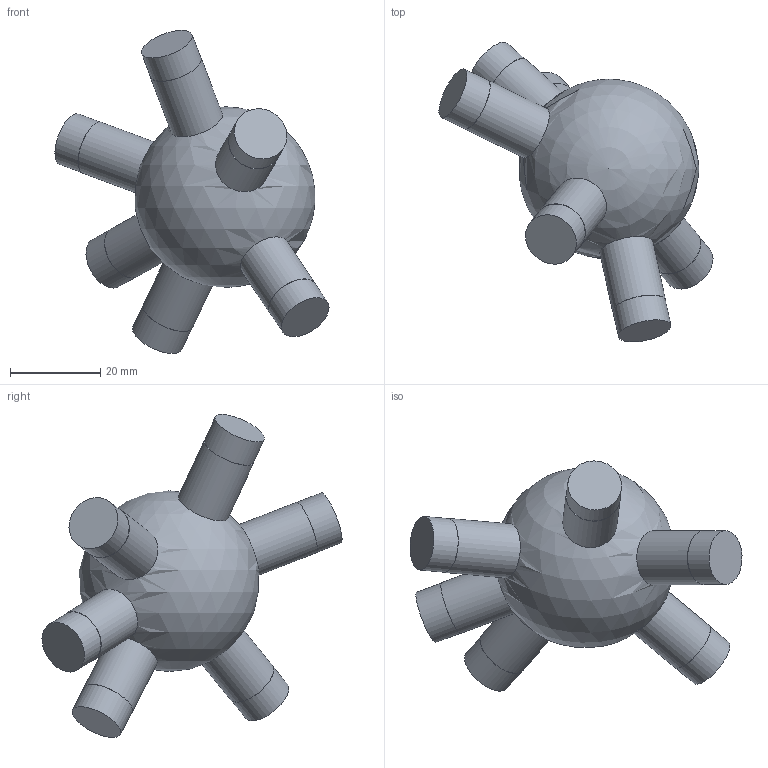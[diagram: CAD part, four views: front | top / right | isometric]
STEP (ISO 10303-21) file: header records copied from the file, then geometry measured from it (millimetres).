
FILE_DESCRIPTION(('Open CASCADE Model'),'2;1');
FILE_NAME('Open CASCADE Shape Model','2026-10-21T12:47:57',('Author'),( 'Open CASCADE'),'Open CASCADE STEP processor 7.9','Open CASCADE 7.9' ,'Unknown');
FILE_SCHEMA(('AUTOMOTIVE_DESIGN { 1 0 10303 214 1 1 1 1 }'));
Length unit declared in the file: millimetre
Products named in the file (1): Open CASCADE STEP translator 7.9 85
Bounding box: 60.65 x 66.41 x 71.49 mm (x, y, z)
Volume: 46647.8 mm3; surface area: 9500.5 mm2
Topology: 1 solids, 1 shells, 25 faces, 43 edges, 29 vertices
Faces by surface type: cylinder 12, plane 12, sphere 1
Full cylindrical faces by diameter (mm): 11.9 x6, 12 x6
Entity records: 1672 total; most frequent: CARTESIAN_POINT 746, DIRECTION 188, ORIENTED_EDGE 80, PCURVE 80, DEFINITIONAL_REPRESENTATION 80, LINE 62, VECTOR 62, AXIS2_PLACEMENT_3D 54
